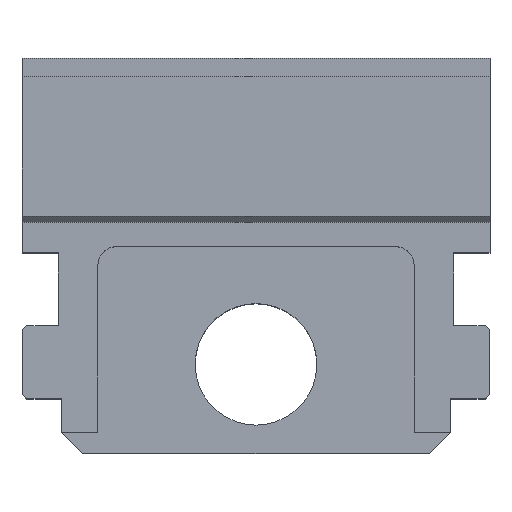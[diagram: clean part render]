
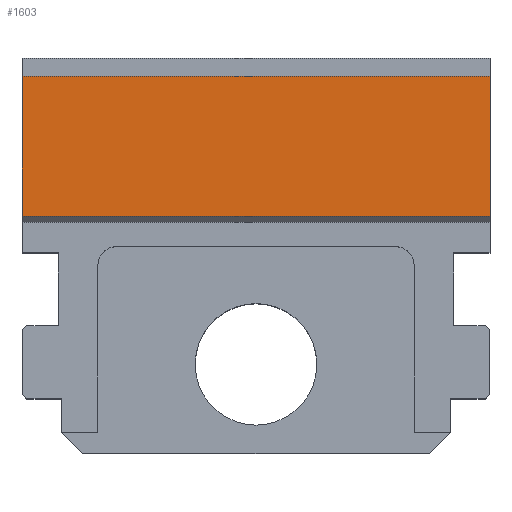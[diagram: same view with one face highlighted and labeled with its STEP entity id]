
A CAD part, top view. The second image highlights one B-rep face of the part: STEP entity #1603.
In plain terms, the highlighted planar face has unit normal (0, 0, 1).
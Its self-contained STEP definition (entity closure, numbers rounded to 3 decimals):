
#98 = CARTESIAN_POINT ( 'NONE',  ( 38.5, 63., 24. ) ) ;
#196 = ORIENTED_EDGE ( 'NONE', *, *, #1827, .F. ) ;
#213 = EDGE_LOOP ( 'NONE', ( #2019, #196, #1214, #706 ) ) ;
#232 = VECTOR ( 'NONE', #935, 1000. ) ;
#426 = LINE ( 'NONE', #2257, #673 ) ;
#428 = EDGE_CURVE ( 'NONE', #1042, #2522, #1990, .T. ) ;
#494 = VERTEX_POINT ( 'NONE', #2254 ) ;
#607 = FACE_OUTER_BOUND ( 'NONE', #213, .T. ) ;
#651 = LINE ( 'NONE', #2309, #1763 ) ;
#673 = VECTOR ( 'NONE', #851, 1000. ) ;
#691 = CARTESIAN_POINT ( 'NONE',  ( 38.5, 63., 24. ) ) ;
#706 = ORIENTED_EDGE ( 'NONE', *, *, #428, .T. ) ;
#851 = DIRECTION ( 'NONE',  ( -1., 0., 0. ) ) ;
#935 = DIRECTION ( 'NONE',  ( -1., 0., 0. ) ) ;
#945 = VERTEX_POINT ( 'NONE', #98 ) ;
#1042 = VERTEX_POINT ( 'NONE', #1286 ) ;
#1214 = ORIENTED_EDGE ( 'NONE', *, *, #1275, .F. ) ;
#1232 = VECTOR ( 'NONE', #1233, 1000. ) ;
#1233 = DIRECTION ( 'NONE',  ( 0., -1., 0. ) ) ;
#1275 = EDGE_CURVE ( 'NONE', #1042, #945, #2666, .T. ) ;
#1286 = CARTESIAN_POINT ( 'NONE',  ( 38.5, 86., 24. ) ) ;
#1432 = PLANE ( 'NONE',  #1620 ) ;
#1522 = DIRECTION ( 'NONE',  ( 0., 1., 0. ) ) ;
#1603 = ADVANCED_FACE ( 'NONE', ( #607 ), #1432, .F. ) ;
#1620 = AXIS2_PLACEMENT_3D ( 'NONE', #691, #1699, #1522 ) ;
#1680 = CARTESIAN_POINT ( 'NONE',  ( 38.5, 63., 24. ) ) ;
#1699 = DIRECTION ( 'NONE',  ( 0., 0., -1. ) ) ;
#1762 = EDGE_CURVE ( 'NONE', #2522, #494, #651, .T. ) ;
#1763 = VECTOR ( 'NONE', #2342, 1000. ) ;
#1827 = EDGE_CURVE ( 'NONE', #945, #494, #426, .T. ) ;
#1990 = LINE ( 'NONE', #2400, #232 ) ;
#2019 = ORIENTED_EDGE ( 'NONE', *, *, #1762, .T. ) ;
#2254 = CARTESIAN_POINT ( 'NONE',  ( -38.5, 63., 24. ) ) ;
#2257 = CARTESIAN_POINT ( 'NONE',  ( 38.5, 63., 24. ) ) ;
#2309 = CARTESIAN_POINT ( 'NONE',  ( -38.5, 63., 24. ) ) ;
#2342 = DIRECTION ( 'NONE',  ( 0., -1., 0. ) ) ;
#2376 = CARTESIAN_POINT ( 'NONE',  ( -38.5, 86., 24. ) ) ;
#2400 = CARTESIAN_POINT ( 'NONE',  ( 38.5, 86., 24. ) ) ;
#2522 = VERTEX_POINT ( 'NONE', #2376 ) ;
#2666 = LINE ( 'NONE', #1680, #1232 ) ;
